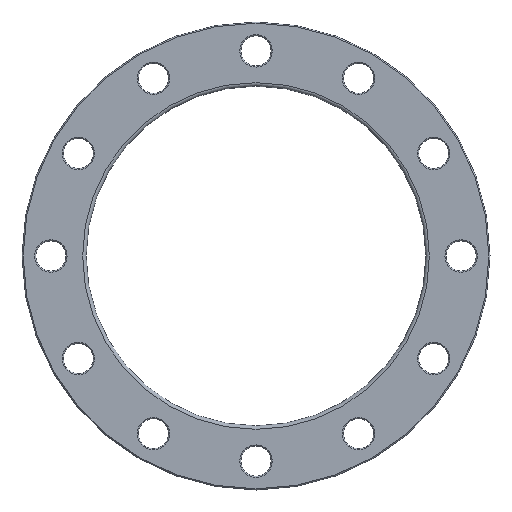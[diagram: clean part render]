
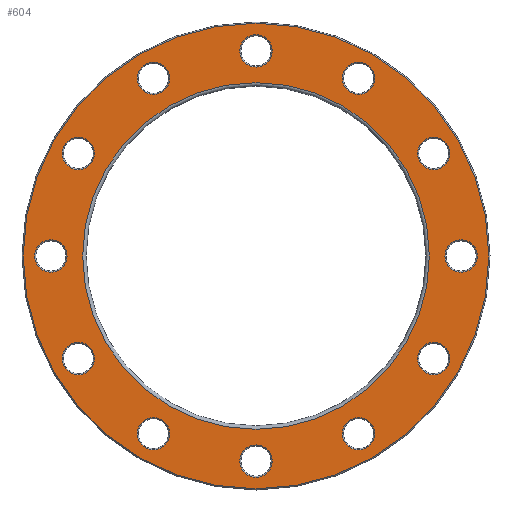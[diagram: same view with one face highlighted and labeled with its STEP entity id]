
A CAD part, front view. The second image highlights one B-rep face of the part: STEP entity #604.
In plain terms, the highlighted planar face has unit normal (0, -1, 0).
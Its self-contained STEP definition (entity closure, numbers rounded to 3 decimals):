
#23=PLANE('',#712);
#134=ORIENTED_EDGE('',*,*,#213,.T.);
#135=ORIENTED_EDGE('',*,*,#214,.T.);
#136=ORIENTED_EDGE('',*,*,#164,.T.);
#137=ORIENTED_EDGE('',*,*,#168,.T.);
#138=ORIENTED_EDGE('',*,*,#172,.T.);
#139=ORIENTED_EDGE('',*,*,#176,.T.);
#140=ORIENTED_EDGE('',*,*,#180,.T.);
#141=ORIENTED_EDGE('',*,*,#184,.T.);
#142=ORIENTED_EDGE('',*,*,#188,.T.);
#143=ORIENTED_EDGE('',*,*,#192,.T.);
#144=ORIENTED_EDGE('',*,*,#196,.T.);
#145=ORIENTED_EDGE('',*,*,#200,.T.);
#146=ORIENTED_EDGE('',*,*,#204,.T.);
#147=ORIENTED_EDGE('',*,*,#215,.T.);
#164=EDGE_CURVE('',#220,#220,#276,.T.);
#168=EDGE_CURVE('',#224,#224,#280,.T.);
#172=EDGE_CURVE('',#228,#228,#284,.T.);
#176=EDGE_CURVE('',#232,#232,#288,.T.);
#180=EDGE_CURVE('',#236,#236,#292,.T.);
#184=EDGE_CURVE('',#240,#240,#296,.T.);
#188=EDGE_CURVE('',#244,#244,#300,.T.);
#192=EDGE_CURVE('',#248,#248,#304,.T.);
#196=EDGE_CURVE('',#252,#252,#308,.T.);
#200=EDGE_CURVE('',#256,#256,#312,.T.);
#204=EDGE_CURVE('',#260,#260,#316,.T.);
#213=EDGE_CURVE('',#269,#269,#325,.F.);
#214=EDGE_CURVE('',#270,#270,#326,.T.);
#215=EDGE_CURVE('',#271,#271,#327,.T.);
#220=VERTEX_POINT('',#935);
#224=VERTEX_POINT('',#946);
#228=VERTEX_POINT('',#957);
#232=VERTEX_POINT('',#968);
#236=VERTEX_POINT('',#979);
#240=VERTEX_POINT('',#990);
#244=VERTEX_POINT('',#1001);
#248=VERTEX_POINT('',#1012);
#252=VERTEX_POINT('',#1023);
#256=VERTEX_POINT('',#1034);
#260=VERTEX_POINT('',#1045);
#269=VERTEX_POINT('',#1068);
#270=VERTEX_POINT('',#1070);
#271=VERTEX_POINT('',#1072);
#276=CIRCLE('',#629,14.);
#280=CIRCLE('',#636,14.);
#284=CIRCLE('',#643,14.);
#288=CIRCLE('',#650,14.);
#292=CIRCLE('',#657,14.);
#296=CIRCLE('',#664,14.);
#300=CIRCLE('',#671,14.);
#304=CIRCLE('',#678,14.);
#308=CIRCLE('',#685,14.);
#312=CIRCLE('',#692,14.);
#316=CIRCLE('',#699,14.);
#325=CIRCLE('',#713,201.5);
#326=CIRCLE('',#714,150.);
#327=CIRCLE('',#715,14.);
#414=EDGE_LOOP('',(#134));
#415=EDGE_LOOP('',(#135));
#416=EDGE_LOOP('',(#136));
#417=EDGE_LOOP('',(#137));
#418=EDGE_LOOP('',(#138));
#419=EDGE_LOOP('',(#139));
#420=EDGE_LOOP('',(#140));
#421=EDGE_LOOP('',(#141));
#422=EDGE_LOOP('',(#142));
#423=EDGE_LOOP('',(#143));
#424=EDGE_LOOP('',(#144));
#425=EDGE_LOOP('',(#145));
#426=EDGE_LOOP('',(#146));
#427=EDGE_LOOP('',(#147));
#526=FACE_BOUND('',#414,.T.);
#527=FACE_BOUND('',#415,.T.);
#528=FACE_BOUND('',#416,.T.);
#529=FACE_BOUND('',#417,.T.);
#530=FACE_BOUND('',#418,.T.);
#531=FACE_BOUND('',#419,.T.);
#532=FACE_BOUND('',#420,.T.);
#533=FACE_BOUND('',#421,.T.);
#534=FACE_BOUND('',#422,.T.);
#535=FACE_BOUND('',#423,.T.);
#536=FACE_BOUND('',#424,.T.);
#537=FACE_BOUND('',#425,.T.);
#538=FACE_BOUND('',#426,.T.);
#539=FACE_BOUND('',#427,.T.);
#604=ADVANCED_FACE('',(#526,#527,#528,#529,#530,#531,#532,#533,#534,#535,
#536,#537,#538,#539),#23,.F.);
#629=AXIS2_PLACEMENT_3D('',#934,#735,#736);
#636=AXIS2_PLACEMENT_3D('',#945,#749,#750);
#643=AXIS2_PLACEMENT_3D('',#956,#763,#764);
#650=AXIS2_PLACEMENT_3D('',#967,#777,#778);
#657=AXIS2_PLACEMENT_3D('',#978,#791,#792);
#664=AXIS2_PLACEMENT_3D('',#989,#805,#806);
#671=AXIS2_PLACEMENT_3D('',#1000,#819,#820);
#678=AXIS2_PLACEMENT_3D('',#1011,#833,#834);
#685=AXIS2_PLACEMENT_3D('',#1022,#847,#848);
#692=AXIS2_PLACEMENT_3D('',#1033,#861,#862);
#699=AXIS2_PLACEMENT_3D('',#1044,#875,#876);
#712=AXIS2_PLACEMENT_3D('',#1066,#901,#902);
#713=AXIS2_PLACEMENT_3D('',#1067,#903,#904);
#714=AXIS2_PLACEMENT_3D('',#1069,#905,#906);
#715=AXIS2_PLACEMENT_3D('',#1071,#907,#908);
#735=DIRECTION('',(0.,1.,0.));
#736=DIRECTION('',(0.866,0.,0.5));
#749=DIRECTION('',(0.,1.,0.));
#750=DIRECTION('',(0.5,0.,0.866));
#763=DIRECTION('',(0.,1.,0.));
#764=DIRECTION('',(0.,0.,1.));
#777=DIRECTION('',(0.,1.,0.));
#778=DIRECTION('',(-0.5,0.,0.866));
#791=DIRECTION('',(0.,1.,0.));
#792=DIRECTION('',(-0.866,0.,0.5));
#805=DIRECTION('',(0.,1.,0.));
#806=DIRECTION('',(-1.,0.,0.));
#819=DIRECTION('',(0.,1.,0.));
#820=DIRECTION('',(-0.866,0.,-0.5));
#833=DIRECTION('',(0.,1.,0.));
#834=DIRECTION('',(-0.5,0.,-0.866));
#847=DIRECTION('',(0.,1.,0.));
#848=DIRECTION('',(0.,0.,-1.));
#861=DIRECTION('',(0.,1.,0.));
#862=DIRECTION('',(0.5,0.,-0.866));
#875=DIRECTION('',(0.,1.,0.));
#876=DIRECTION('',(0.866,0.,-0.5));
#901=DIRECTION('',(0.,1.,0.));
#902=DIRECTION('',(0.,0.,1.));
#903=DIRECTION('',(0.,1.,0.));
#904=DIRECTION('',(0.,0.,1.));
#905=DIRECTION('',(0.,1.,0.));
#906=DIRECTION('',(0.,0.,1.));
#907=DIRECTION('',(0.,1.,0.));
#908=DIRECTION('',(1.,0.,0.));
#934=CARTESIAN_POINT('',(-88.75,0.,153.72));
#935=CARTESIAN_POINT('',(-76.626,0.,160.72));
#945=CARTESIAN_POINT('',(-153.72,0.,88.75));
#946=CARTESIAN_POINT('',(-146.72,0.,100.874));
#956=CARTESIAN_POINT('',(-177.5,0.,0.));
#957=CARTESIAN_POINT('',(-177.5,0.,14.));
#967=CARTESIAN_POINT('',(-153.72,0.,-88.75));
#968=CARTESIAN_POINT('',(-160.72,0.,-76.626));
#978=CARTESIAN_POINT('',(-88.75,0.,-153.72));
#979=CARTESIAN_POINT('',(-100.874,0.,-146.72));
#989=CARTESIAN_POINT('',(0.,0.,-177.5));
#990=CARTESIAN_POINT('',(-14.,0.,-177.5));
#1000=CARTESIAN_POINT('',(88.75,0.,-153.72));
#1001=CARTESIAN_POINT('',(76.626,0.,-160.72));
#1011=CARTESIAN_POINT('',(153.72,0.,-88.75));
#1012=CARTESIAN_POINT('',(146.72,0.,-100.874));
#1022=CARTESIAN_POINT('',(177.5,0.,0.));
#1023=CARTESIAN_POINT('',(177.5,0.,-14.));
#1033=CARTESIAN_POINT('',(153.72,0.,88.75));
#1034=CARTESIAN_POINT('',(160.72,0.,76.626));
#1044=CARTESIAN_POINT('',(88.75,0.,153.72));
#1045=CARTESIAN_POINT('',(100.874,0.,146.72));
#1066=CARTESIAN_POINT('',(0.,0.,0.));
#1067=CARTESIAN_POINT('',(0.,0.,0.));
#1068=CARTESIAN_POINT('',(0.,0.,201.5));
#1069=CARTESIAN_POINT('',(0.,0.,0.));
#1070=CARTESIAN_POINT('',(0.,0.,150.));
#1071=CARTESIAN_POINT('',(0.,0.,177.5));
#1072=CARTESIAN_POINT('',(14.,0.,177.5));
